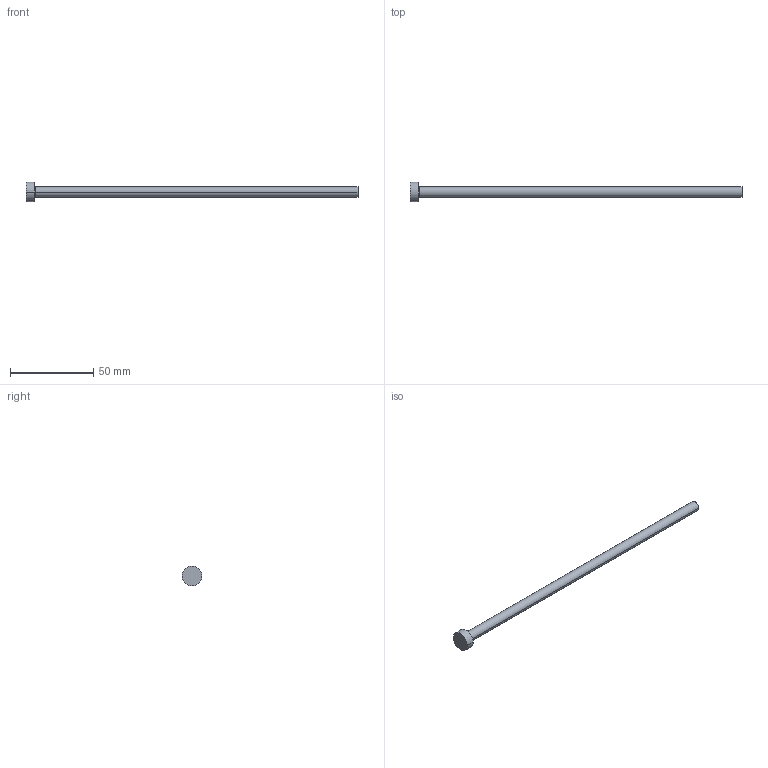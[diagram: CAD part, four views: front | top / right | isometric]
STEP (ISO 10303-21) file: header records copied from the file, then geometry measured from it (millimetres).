
FILE_DESCRIPTION (( 'STEP AP214' ), '1' );
FILE_NAME ('A-6,2x200.STEP', '2020-05-29T15:37:08', ( 'August' ), ( '' ), 'SwSTEP 2.0', 'SolidWorks 2018', '' );
FILE_SCHEMA (( 'AUTOMOTIVE_DESIGN' ));
Length unit declared in the file: millimetre
Products named in the file (1): A-6,2x200
Bounding box: 200 x 12 x 12 mm (x, y, z)
Volume: 6453.8 mm3; surface area: 4208.8 mm2
Topology: 1 solids, 1 shells, 9 faces, 16 edges, 10 vertices
Faces by surface type: cylinder 4, plane 3, torus 2
Entity records: 260 total; most frequent: DIRECTION 48, CARTESIAN_POINT 36, ORIENTED_EDGE 32, AXIS2_PLACEMENT_3D 22, EDGE_CURVE 16, CIRCLE 12, EDGE_LOOP 10, VERTEX_POINT 10
